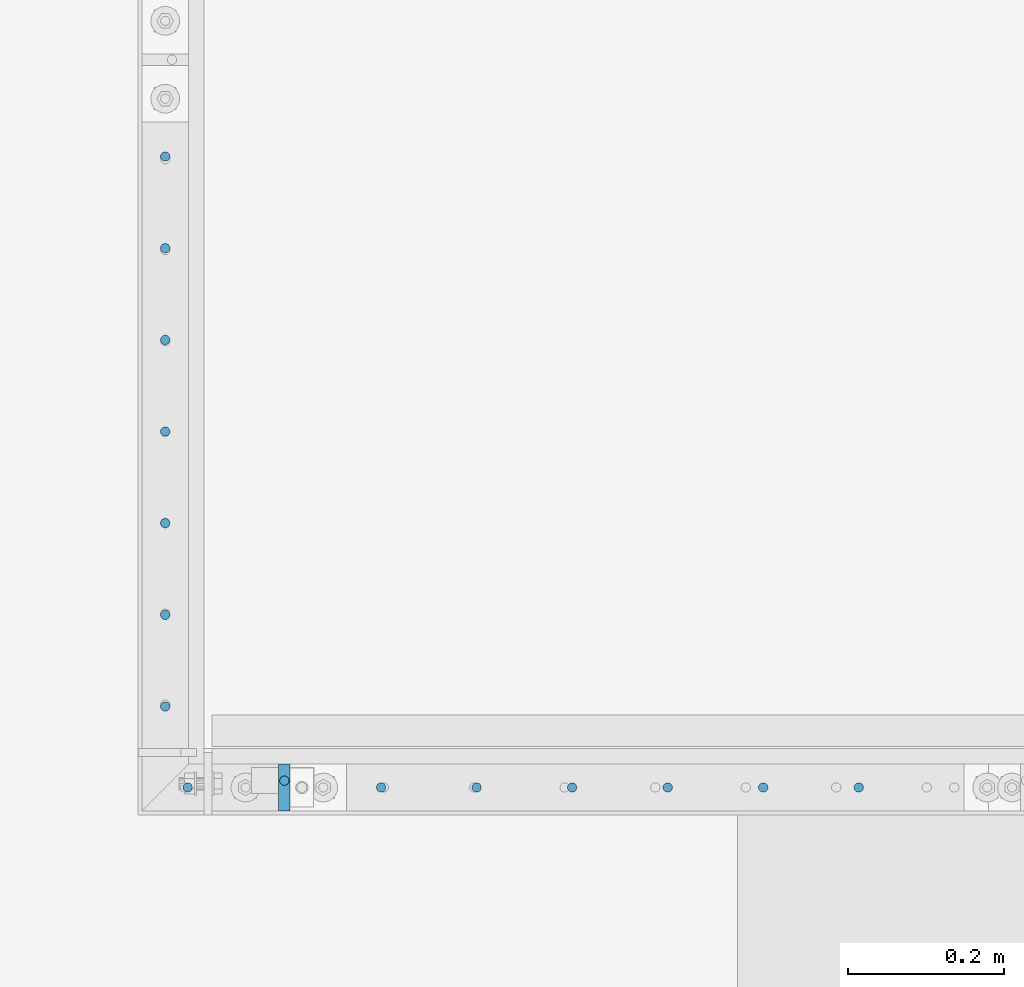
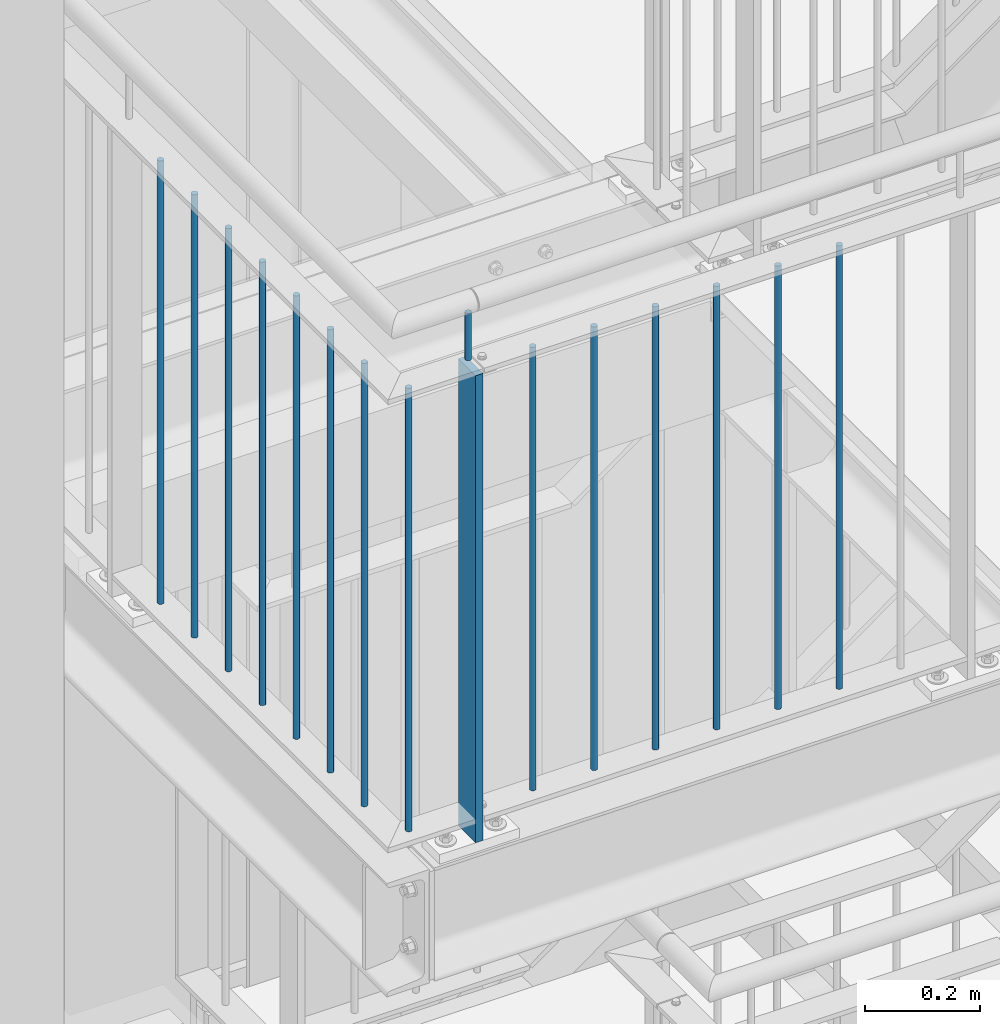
# One storey, part 7 of 825: 16 columns.
"""IFC2X3 building model written with IfcOpenShell, lengths in millimetres."""

from ifc_helpers import new_model, entity, si_unit, converted_unit, frame, origin, origin_with_axes, origin_2d, place, context, project, spatial, rectangle, circle, extrude, clip, halfspace, material, element, save


model = new_model("IFC2X3")

# Units and contexts
model_context = context("Model", 3, precision=1e-09, world=origin_with_axes())
ifc_project = project(units=[si_unit("LENGTHUNIT", "METRE", prefix="MILLI"), si_unit("AREAUNIT", "SQUARE_METRE"), si_unit("VOLUMEUNIT", "CUBIC_METRE"), converted_unit("PLANEANGLEUNIT", "DEGREE", entity("IfcPlaneAngleMeasure", 0.01745329), si_unit("PLANEANGLEUNIT", "RADIAN"), dimensions=[0, 0, 0, 0, 0, 0, 0])], contexts=[model_context])

# Site, building, storey
site_placement = place(None, origin_with_axes())
site = spatial("IfcSite", under=ifc_project, at=site_placement, Name="Cnopf'sche Kinderklinik", CompositionType="ELEMENT")
building_placement = place(site_placement, origin_with_axes())
building = spatial("IfcBuilding", under=site, at=building_placement, Name="Struktur 1", CompositionType="ELEMENT")
storey_placement = place(building_placement, origin_with_axes())
storey = spatial("IfcBuildingStorey", under=building, at=storey_placement, Name="Default Storey", CompositionType="ELEMENT", Elevation=0.0)

# Columns
ifc_material = material(Name="S235JR")
column_1_placement = place(None, frame((3424.79154585, 4526.736971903, 16253.723292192), z_axis=(0.0, 0.0, 1.0), x_axis=(-1.0, 0.0, 0.0)))
element("IfcColumn", 1, at=column_1_placement, inside=storey, material=ifc_material, Name="Railing_Post_Landing#13", ObjectType="Railing_Post_Landing#13", context=model_context, shape_type="Clipping", body=[
    clip(clip(extrude(rectangle(XDim=15.0, YDim=60.0, at=origin_2d()), origin(), (0.0, 0.0, -1.0), 1070.646584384), halfspace(frame((3424.79154585, 4526.736971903, -1019.722292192), z_axis=(0.0, 0.0, 1.0), x_axis=(-1.0, 0.0, 0.0)), True)), halfspace(frame((3424.79154585, 4526.736971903, -30.924292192), z_axis=(0.0, 0.0, -1.0), x_axis=(1.0, 0.0, 0.0)), True)),
])
column_2_placement = place(None, frame((4162.791664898, 4526.736971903, 16236.285281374), z_axis=(0.0, 0.0, 1.0), x_axis=(-1.0, 0.0, 0.0)))
element("IfcColumn", 2, at=column_2_placement, inside=storey, material=ifc_material, Name="Railing_Picket_Landing#84", ObjectType="Railing_Picket_Landing#84", context=model_context, shape_type="Clipping", body=[
    clip(clip(extrude(circle(Radius=6.0, at=origin_2d()), origin(), (0.0, 0.0, -1.0), 965.770562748), halfspace(frame((4162.791664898, 4526.736971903, -13.486281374), z_axis=(0.0, 0.0, -1.0), x_axis=(1.0, 0.0, 0.0)), True)), halfspace(frame((4162.791664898, 4526.736971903, -952.284281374), z_axis=(0.0, 0.0, 1.0), x_axis=(-1.0, 0.0, 0.0)), True)),
])
column_3_placement = place(None, frame((4040.041641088, 4526.736971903, 16236.285281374), z_axis=(0.0, 0.0, 1.0), x_axis=(-1.0, 0.0, 0.0)))
element("IfcColumn", 3, at=column_3_placement, inside=storey, material=ifc_material, Name="Railing_Picket_Landing#85", ObjectType="Railing_Picket_Landing#85", context=model_context, shape_type="Clipping", body=[
    clip(clip(extrude(circle(Radius=6.0, at=origin_2d()), origin(), (0.0, 0.0, -1.0), 965.770562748), halfspace(frame((4040.041641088, 4526.736971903, -13.486281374), z_axis=(0.0, 0.0, -1.0), x_axis=(1.0, 0.0, 0.0)), True)), halfspace(frame((4040.041641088, 4526.736971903, -952.284281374), z_axis=(0.0, 0.0, 1.0), x_axis=(-1.0, 0.0, 0.0)), True)),
])
column_4_placement = place(None, frame((3917.291617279, 4526.736971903, 16236.285281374), z_axis=(0.0, 0.0, 1.0), x_axis=(-1.0, 0.0, 0.0)))
element("IfcColumn", 4, at=column_4_placement, inside=storey, material=ifc_material, Name="Railing_Picket_Landing#86", ObjectType="Railing_Picket_Landing#86", context=model_context, shape_type="Clipping", body=[
    clip(clip(extrude(circle(Radius=6.0, at=origin_2d()), origin(), (0.0, 0.0, -1.0), 965.770562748), halfspace(frame((3917.291617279, 4526.736971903, -13.486281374), z_axis=(0.0, 0.0, -1.0), x_axis=(1.0, 0.0, 0.0)), True)), halfspace(frame((3917.291617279, 4526.736971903, -952.284281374), z_axis=(0.0, 0.0, 1.0), x_axis=(-1.0, 0.0, 0.0)), True)),
])
column_5_placement = place(None, frame((3794.541593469, 4526.736971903, 16236.285281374), z_axis=(0.0, 0.0, 1.0), x_axis=(-1.0, 0.0, 0.0)))
element("IfcColumn", 5, at=column_5_placement, inside=storey, material=ifc_material, Name="Railing_Picket_Landing#87", ObjectType="Railing_Picket_Landing#87", context=model_context, shape_type="Clipping", body=[
    clip(clip(extrude(circle(Radius=6.0, at=origin_2d()), origin(), (0.0, 0.0, -1.0), 965.770562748), halfspace(frame((3794.541593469, 4526.736971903, -13.486281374), z_axis=(0.0, 0.0, -1.0), x_axis=(1.0, 0.0, 0.0)), True)), halfspace(frame((3794.541593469, 4526.736971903, -952.284281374), z_axis=(0.0, 0.0, 1.0), x_axis=(-1.0, 0.0, 0.0)), True)),
])
column_6_placement = place(None, frame((3671.79156966, 4526.736971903, 16236.285281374), z_axis=(0.0, 0.0, 1.0), x_axis=(-1.0, 0.0, 0.0)))
element("IfcColumn", 6, at=column_6_placement, inside=storey, material=ifc_material, Name="Railing_Picket_Landing#88", ObjectType="Railing_Picket_Landing#88", context=model_context, shape_type="Clipping", body=[
    clip(clip(extrude(circle(Radius=6.0, at=origin_2d()), origin(), (0.0, 0.0, -1.0), 965.770562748), halfspace(frame((3671.79156966, 4526.736971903, -13.486281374), z_axis=(0.0, 0.0, -1.0), x_axis=(1.0, 0.0, 0.0)), True)), halfspace(frame((3671.79156966, 4526.736971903, -952.284281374), z_axis=(0.0, 0.0, 1.0), x_axis=(-1.0, 0.0, 0.0)), True)),
])
column_7_placement = place(None, frame((3549.04154585, 4526.736971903, 16236.285281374), z_axis=(0.0, 0.0, 1.0), x_axis=(-1.0, 0.0, 0.0)))
element("IfcColumn", 7, at=column_7_placement, inside=storey, material=ifc_material, Name="Railing_Picket_Landing#89", ObjectType="Railing_Picket_Landing#89", context=model_context, shape_type="Clipping", body=[
    clip(clip(extrude(circle(Radius=6.0, at=origin_2d()), origin(), (0.0, 0.0, -1.0), 965.770562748), halfspace(frame((3549.04154585, 4526.736971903, -13.486281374), z_axis=(0.0, 0.0, -1.0), x_axis=(1.0, 0.0, 0.0)), True)), halfspace(frame((3549.04154585, 4526.736971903, -952.284281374), z_axis=(0.0, 0.0, 1.0), x_axis=(-1.0, 0.0, 0.0)), True)),
])
column_8_placement = place(None, frame((3300.54154585, 4526.736971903, 16236.285281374), z_axis=(0.0, 0.0, 1.0), x_axis=(-1.0, 0.0, 0.0)))
element("IfcColumn", 8, at=column_8_placement, inside=storey, material=ifc_material, Name="Railing_Picket_Landing#90", ObjectType="Railing_Picket_Landing#90", context=model_context, shape_type="Clipping", body=[
    clip(clip(extrude(circle(Radius=6.0, at=origin_2d()), origin(), (0.0, 0.0, -1.0), 965.770562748), halfspace(frame((3300.54154585, 4526.736971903, -13.486281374), z_axis=(0.0, 0.0, -1.0), x_axis=(1.0, 0.0, 0.0)), True)), halfspace(frame((3300.54154585, 4526.736971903, -952.284281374), z_axis=(0.0, 0.0, 1.0), x_axis=(-1.0, 0.0, 0.0)), True)),
])
column_9_placement = place(None, frame((3271.713402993, 4630.705992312, 16236.285281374), z_axis=(0.0, 0.0, 1.0), x_axis=(0.0, 1.0, 0.0)))
element("IfcColumn", 9, at=column_9_placement, inside=storey, material=ifc_material, Name="Railing_Picket_Landing#91", ObjectType="Railing_Picket_Landing#91", context=model_context, shape_type="Clipping", body=[
    clip(clip(extrude(circle(Radius=6.0, at=origin_2d()), origin(), (0.0, 0.0, -1.0), 965.770562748), halfspace(frame((-4630.705992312, 3271.713402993, -13.486281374), z_axis=(0.0, 0.0, -1.0), x_axis=(0.0, 1.0, 0.0)), True)), halfspace(frame((-4630.705992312, 3271.713402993, -952.284281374), z_axis=(0.0, 0.0, 1.0), x_axis=(0.0, -1.0, 0.0)), True)),
])
column_10_placement = place(None, frame((3271.713402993, 4748.503155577, 16236.285281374), z_axis=(0.0, 0.0, 1.0), x_axis=(0.0, 1.0, 0.0)))
element("IfcColumn", 10, at=column_10_placement, inside=storey, material=ifc_material, Name="Railing_Picket_Landing#92", ObjectType="Railing_Picket_Landing#92", context=model_context, shape_type="Clipping", body=[
    clip(clip(extrude(circle(Radius=6.0, at=origin_2d()), origin(), (0.0, 0.0, -1.0), 965.770562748), halfspace(frame((-4748.503155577, 3271.713402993, -13.486281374), z_axis=(0.0, 0.0, -1.0), x_axis=(0.0, 1.0, 0.0)), True)), halfspace(frame((-4748.503155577, 3271.713402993, -952.284281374), z_axis=(0.0, 0.0, 1.0), x_axis=(0.0, -1.0, 0.0)), True)),
])
column_11_placement = place(None, frame((3271.713402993, 4866.300318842, 16236.285281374), z_axis=(0.0, 0.0, 1.0), x_axis=(0.0, 1.0, 0.0)))
element("IfcColumn", 11, at=column_11_placement, inside=storey, material=ifc_material, Name="Railing_Picket_Landing#93", ObjectType="Railing_Picket_Landing#93", context=model_context, shape_type="Clipping", body=[
    clip(clip(extrude(circle(Radius=6.0, at=origin_2d()), origin(), (0.0, 0.0, -1.0), 965.770562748), halfspace(frame((-4866.300318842, 3271.713402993, -13.486281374), z_axis=(0.0, 0.0, -1.0), x_axis=(0.0, 1.0, 0.0)), True)), halfspace(frame((-4866.300318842, 3271.713402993, -952.284281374), z_axis=(0.0, 0.0, 1.0), x_axis=(0.0, -1.0, 0.0)), True)),
])
column_12_placement = place(None, frame((3271.713402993, 4984.097482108, 16236.285281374), z_axis=(0.0, 0.0, 1.0), x_axis=(0.0, 1.0, 0.0)))
element("IfcColumn", 12, at=column_12_placement, inside=storey, material=ifc_material, Name="Railing_Picket_Landing#94", ObjectType="Railing_Picket_Landing#94", context=model_context, shape_type="Clipping", body=[
    clip(clip(extrude(circle(Radius=6.0, at=origin_2d()), origin(), (0.0, 0.0, -1.0), 965.770562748), halfspace(frame((-4984.097482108, 3271.713402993, -13.486281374), z_axis=(0.0, 0.0, -1.0), x_axis=(0.0, 1.0, 0.0)), True)), halfspace(frame((-4984.097482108, 3271.713402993, -952.284281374), z_axis=(0.0, 0.0, 1.0), x_axis=(0.0, -1.0, 0.0)), True)),
])
column_13_placement = place(None, frame((3271.713402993, 5101.894645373, 16236.285281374), z_axis=(0.0, 0.0, 1.0), x_axis=(0.0, 1.0, 0.0)))
element("IfcColumn", 13, at=column_13_placement, inside=storey, material=ifc_material, Name="Railing_Picket_Landing#95", ObjectType="Railing_Picket_Landing#95", context=model_context, shape_type="Clipping", body=[
    clip(clip(extrude(circle(Radius=6.0, at=origin_2d()), origin(), (0.0, 0.0, -1.0), 965.770562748), halfspace(frame((-5101.894645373, 3271.713402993, -13.486281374), z_axis=(0.0, 0.0, -1.0), x_axis=(0.0, 1.0, 0.0)), True)), halfspace(frame((-5101.894645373, 3271.713402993, -952.284281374), z_axis=(0.0, 0.0, 1.0), x_axis=(0.0, -1.0, 0.0)), True)),
])
column_14_placement = place(None, frame((3271.713402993, 5219.691808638, 16236.285281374), z_axis=(0.0, 0.0, 1.0), x_axis=(0.0, 1.0, 0.0)))
element("IfcColumn", 14, at=column_14_placement, inside=storey, material=ifc_material, Name="Railing_Picket_Landing#96", ObjectType="Railing_Picket_Landing#96", context=model_context, shape_type="Clipping", body=[
    clip(clip(extrude(circle(Radius=6.0, at=origin_2d()), origin(), (0.0, 0.0, -1.0), 965.770562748), halfspace(frame((-5219.691808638, 3271.713402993, -13.486281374), z_axis=(0.0, 0.0, -1.0), x_axis=(0.0, 1.0, 0.0)), True)), halfspace(frame((-5219.691808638, 3271.713402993, -952.284281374), z_axis=(0.0, 0.0, 1.0), x_axis=(0.0, -1.0, 0.0)), True)),
])
column_15_placement = place(None, frame((3271.713402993, 5337.488971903, 16236.285281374), z_axis=(0.0, 0.0, 1.0), x_axis=(0.0, 1.0, 0.0)))
element("IfcColumn", 15, at=column_15_placement, inside=storey, material=ifc_material, Name="Railing_Picket_Landing#97", ObjectType="Railing_Picket_Landing#97", context=model_context, shape_type="Clipping", body=[
    clip(clip(extrude(circle(Radius=6.0, at=origin_2d()), origin(), (0.0, 0.0, -1.0), 965.770562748), halfspace(frame((-5337.488971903, 3271.713402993, -13.486281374), z_axis=(0.0, 0.0, -1.0), x_axis=(0.0, 1.0, 0.0)), True)), halfspace(frame((-5337.488971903, 3271.713402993, -952.284281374), z_axis=(0.0, 0.0, 1.0), x_axis=(0.0, -1.0, 0.0)), True)),
])
column_16_placement = place(None, frame((3424.79154585, 4535.536971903, 16341.285281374), z_axis=(0.0, 0.0, 1.0), x_axis=(0.0, 1.0, 0.0)))
element("IfcColumn", 16, at=column_16_placement, inside=storey, material=ifc_material, Name="Bar#13", ObjectType="Bar#13", context=model_context, shape_type="Clipping", body=[
    clip(clip(extrude(circle(Radius=6.0, at=origin_2d()), origin(), (0.0, 0.0, -1.0), 116.970562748), halfspace(frame((-4535.536971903, 3424.79154585, -8.486281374), z_axis=(0.0, 0.0, -1.0), x_axis=(0.0, 1.0, 0.0)), True)), halfspace(frame((-4535.536971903, 3424.79154585, -108.484281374), z_axis=(0.0, 0.0, 1.0), x_axis=(0.0, -1.0, 0.0)), True)),
])

save(model, "model.ifc")
